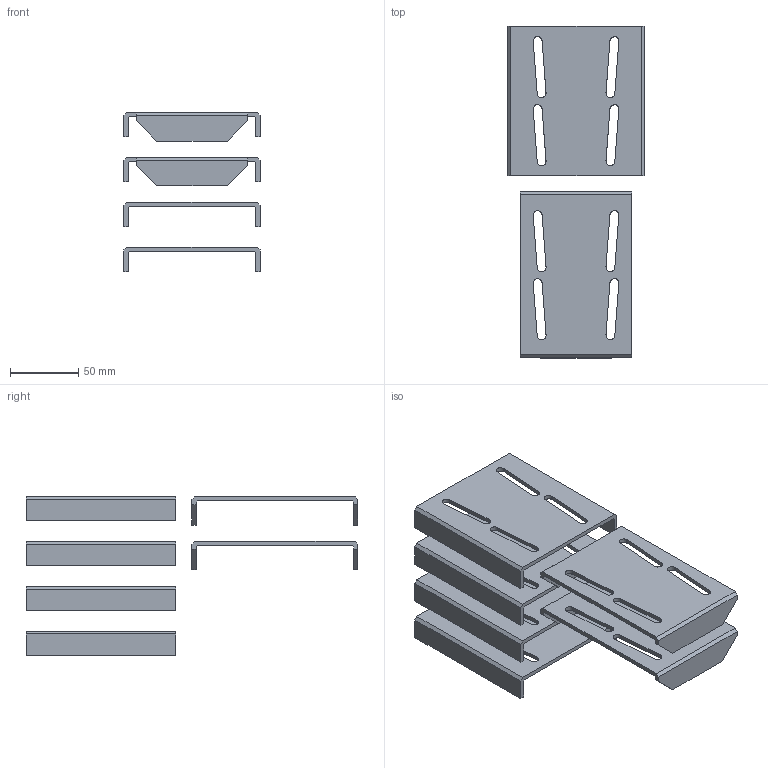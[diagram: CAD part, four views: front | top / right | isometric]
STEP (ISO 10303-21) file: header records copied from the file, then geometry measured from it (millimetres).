
FILE_DESCRIPTION (( 'STEP AP214' ), '1' );
FILE_NAME ('YKM40D-FO-JK-200-54 Êîìïëåêò äëÿ ñîåäèíåíèÿ øêàôîâ IP54.STEP', '2025-09-29T11:50:46', ( '' ), ( '' ), 'SwSTEP 2.0', 'SolidWorks 2023', '' );
FILE_SCHEMA (( 'AUTOMOTIVE_DESIGN' ));
Length unit declared in the file: millimetre
Products named in the file (3): АГИЕ 275.00.011 Соединительная пластина; YKM40D-FO-JK-200-54 Комплект для соединения шкафов IP54; АГИЕ 275.00.011 Соединительная пластина_01
Assembly tree (6 placements, depth 2):
  YKM40D-FO-JK-200-54 Комплект для соединения шкафов IP54
    АГИЕ 275.00.011 Соединительная пластина_01  x2
    АГИЕ 275.00.011 Соединительная пластина  x4
Bounding box: 100 x 243.94 x 117 mm (x, y, z)
Volume: 224078.7 mm3; surface area: 163986.4 mm2
Topology: 6 solids, 6 shells, 212 faces, 600 edges, 400 vertices
Faces by surface type: plane 140, cylinder 72
Entity records: 2488 total; most frequent: CARTESIAN_POINT 421, DIRECTION 414, ORIENTED_EDGE 408, EDGE_CURVE 204, LINE 156, VECTOR 156, VERTEX_POINT 136, AXIS2_PLACEMENT_3D 129
